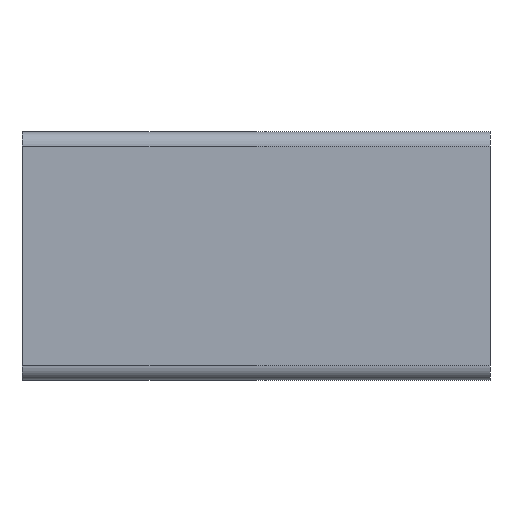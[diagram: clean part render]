
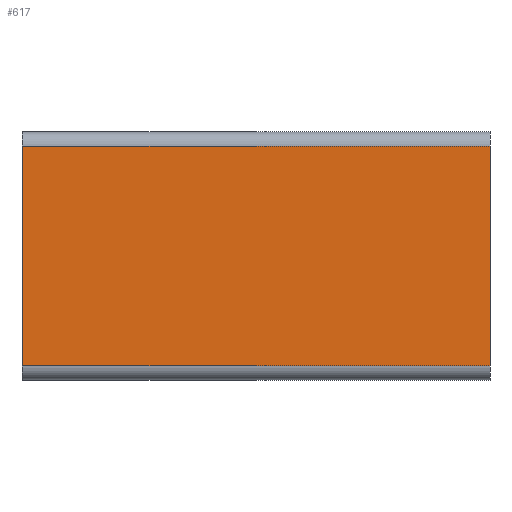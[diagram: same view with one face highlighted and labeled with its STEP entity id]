
A CAD part, front view. The second image highlights one B-rep face of the part: STEP entity #617.
In plain terms, the highlighted planar face has unit normal (0, -1, 0).
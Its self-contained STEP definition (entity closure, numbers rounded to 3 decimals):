
#559=CARTESIAN_POINT('',(100.0,-67.7,3.0));
#560=VERTEX_POINT('',#559);
#568=CARTESIAN_POINT('',(0.0,-67.7,3.0));
#569=VERTEX_POINT('',#568);
#570=CARTESIAN_POINT('',(0.0,-67.7,3.0));
#571=DIRECTION('',(1.0,0.0,0.0));
#572=VECTOR('',#571,100.0);
#573=LINE('',#570,#572);
#574=EDGE_CURVE('',#569,#560,#573,.T.);
#587=CARTESIAN_POINT('',(0.0,-67.7,3.0));
#588=DIRECTION('',(0.0,-1.0,0.0));
#589=DIRECTION('',(0.0,0.0,-1.0));
#590=AXIS2_PLACEMENT_3D('',#587,#588,#589);
#591=PLANE('',#590);
#592=CARTESIAN_POINT('',(100.0,-67.7,50.0));
#593=VERTEX_POINT('',#592);
#594=CARTESIAN_POINT('',(100.0,-67.7,3.0));
#595=DIRECTION('',(0.0,0.0,1.0));
#596=VECTOR('',#595,47.0);
#597=LINE('',#594,#596);
#598=EDGE_CURVE('',#560,#593,#597,.T.);
#599=ORIENTED_EDGE('',*,*,#598,.T.);
#600=CARTESIAN_POINT('',(0.0,-67.7,50.0));
#601=VERTEX_POINT('',#600);
#602=CARTESIAN_POINT('',(0.0,-67.7,50.0));
#603=DIRECTION('',(1.0,0.0,0.0));
#604=VECTOR('',#603,100.0);
#605=LINE('',#602,#604);
#606=EDGE_CURVE('',#601,#593,#605,.T.);
#607=ORIENTED_EDGE('',*,*,#606,.F.);
#608=CARTESIAN_POINT('',(0.0,-67.7,50.0));
#609=DIRECTION('',(0.0,0.0,-1.0));
#610=VECTOR('',#609,47.0);
#611=LINE('',#608,#610);
#612=EDGE_CURVE('',#601,#569,#611,.T.);
#613=ORIENTED_EDGE('',*,*,#612,.T.);
#614=ORIENTED_EDGE('',*,*,#574,.T.);
#615=EDGE_LOOP('',(#599,#607,#613,#614));
#616=FACE_OUTER_BOUND('',#615,.T.);
#617=ADVANCED_FACE('',(#616),#591,.T.);
